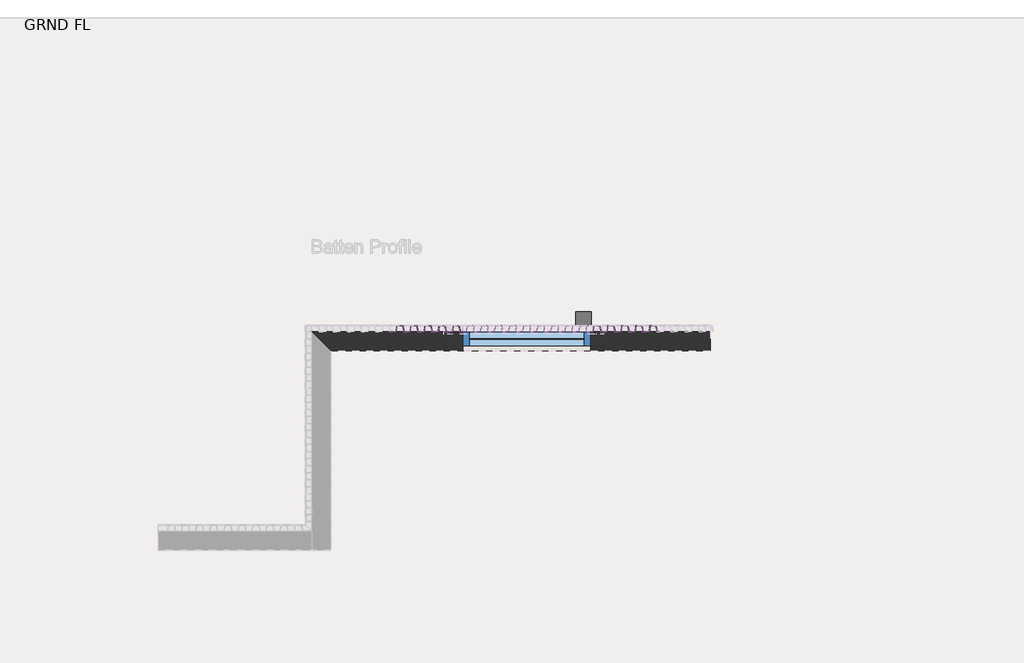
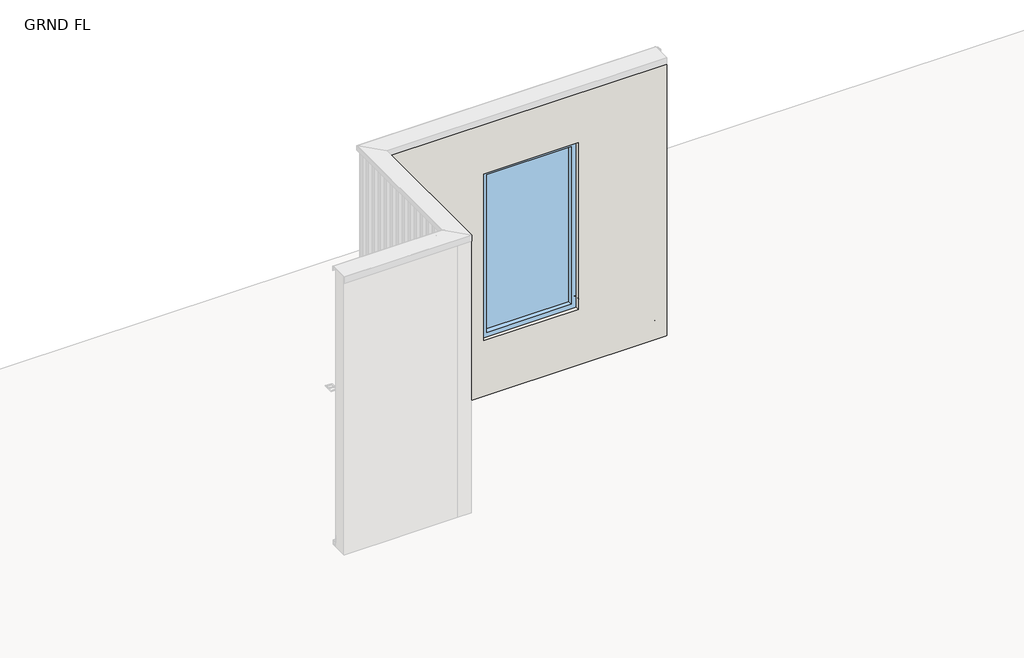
# One storey, part 6 of 13: 49 members, 1 plate, 1 wall, 1 window.
"""IFC4 building model written with IfcOpenShell, lengths in millimetres."""

from ifc_helpers import new_model, si_unit, frame, origin, place, context, project, spatial, polyline, ellipse_curve, transform, mapped, element, save
from ifc_brep_helpers import plane_surface, cylinder_surface, revolved_surface, advanced_brep
from components import rectangular_mullion_24ba1bdb, rectangular_mullion_119e265c, rectangular_mullion_e0d82e72, rectangular_mullion_8aa512d7, rectangular_mullion_ccb74b43, rectangular_mullion_4c5af404, rectangular_mullion_01a75ad8, empty_system_panel_empty_7b0bd923, window_5925f158

model = new_model("IFC4")

# Units and contexts
model_context = context("Model", 3, world=origin())
ifc_project = project(units=[si_unit("LENGTHUNIT", "METRE", prefix="MILLI")], contexts=[model_context])

# Site, building, storey
site = spatial("IfcSite", under=ifc_project)
building = spatial("IfcBuilding", under=site)
storey = spatial("IfcBuildingStorey", under=building, Name="GRND FL", Elevation=35277.5920148)

# Members
placement = place(None, origin())
rectangular_mullion_shape = rectangular_mullion_24ba1bdb(model_context)
element("IfcMember", 1, ObjectType="Rectangular Mullion : CD_NINELINE_Batten Intermediate", at=placement, inside=storey, context=model_context, shape_type="MappedRepresentation", body=[
    mapped(rectangular_mullion_shape, transform((69609.9888682, -3745.6146039, 35330.5920148), x_axis=(1.0, 0.0, 0.0), y_axis=(0.0, -1.0, 0.0), z_axis=(0.0, 0.0, -1.0))),
])
element("IfcMember", 2, ObjectType="Rectangular Mullion : CD_NINELINE_Batten Intermediate", at=placement, inside=storey, context=model_context, shape_type="MappedRepresentation", body=[
    mapped(rectangular_mullion_shape, transform((69715.9888682, -3745.6146039, 35330.5920148), x_axis=(1.0, 0.0, 0.0), y_axis=(0.0, -1.0, 0.0), z_axis=(0.0, 0.0, -1.0))),
])
element("IfcMember", 3, ObjectType="Rectangular Mullion : CD_NINELINE_Batten Intermediate", at=placement, inside=storey, context=model_context, shape_type="MappedRepresentation", body=[
    mapped(rectangular_mullion_shape, transform((69821.9888682, -3745.6146039, 35330.5920148), x_axis=(1.0, 0.0, 0.0), y_axis=(0.0, -1.0, 0.0), z_axis=(0.0, 0.0, -1.0))),
])
element("IfcMember", 4, ObjectType="Rectangular Mullion : CD_NINELINE_Batten Intermediate", at=placement, inside=storey, context=model_context, shape_type="MappedRepresentation", body=[
    mapped(rectangular_mullion_shape, transform((69927.9888682, -3745.6146039, 35330.5920148), x_axis=(1.0, 0.0, 0.0), y_axis=(0.0, -1.0, 0.0), z_axis=(0.0, 0.0, -1.0))),
])
element("IfcMember", 5, ObjectType="Rectangular Mullion : CD_NINELINE_Batten Intermediate", at=placement, inside=storey, context=model_context, shape_type="MappedRepresentation", body=[
    mapped(rectangular_mullion_shape, transform((70033.9888682, -3745.6146039, 35330.5920148), x_axis=(1.0, 0.0, 0.0), y_axis=(0.0, -1.0, 0.0), z_axis=(0.0, 0.0, -1.0))),
])
element("IfcMember", 6, ObjectType="Rectangular Mullion : CD_NINELINE_Batten Intermediate", at=placement, inside=storey, context=model_context, shape_type="MappedRepresentation", body=[
    mapped(rectangular_mullion_shape, transform((70139.9888682, -3745.6146039, 35330.5920148), x_axis=(1.0, 0.0, 0.0), y_axis=(0.0, -1.0, 0.0), z_axis=(0.0, 0.0, -1.0))),
])
element("IfcMember", 7, ObjectType="Rectangular Mullion : CD_NINELINE_Batten Intermediate", at=placement, inside=storey, context=model_context, shape_type="MappedRepresentation", body=[
    mapped(rectangular_mullion_shape, transform((70245.9888682, -3745.6146039, 35330.5920148), x_axis=(1.0, 0.0, 0.0), y_axis=(0.0, -1.0, 0.0), z_axis=(0.0, 0.0, -1.0))),
])
element("IfcMember", 8, ObjectType="Rectangular Mullion : CD_NINELINE_Batten Intermediate", at=placement, inside=storey, context=model_context, shape_type="MappedRepresentation", body=[
    mapped(rectangular_mullion_shape, transform((70351.9888682, -3745.6146039, 35330.5920148), x_axis=(1.0, 0.0, 0.0), y_axis=(0.0, -1.0, 0.0), z_axis=(0.0, 0.0, -1.0))),
])
element("IfcMember", 9, ObjectType="Rectangular Mullion : CD_NINELINE_Batten Intermediate", at=placement, inside=storey, context=model_context, shape_type="MappedRepresentation", body=[
    mapped(rectangular_mullion_shape, transform((70457.9888682, -3745.6146039, 35330.5920148), x_axis=(1.0, 0.0, 0.0), y_axis=(0.0, -1.0, 0.0), z_axis=(0.0, 0.0, -1.0))),
])
rectangular_mullion_2_shape = rectangular_mullion_119e265c(model_context)
element("IfcMember", 10, ObjectType="Rectangular Mullion : CD_NINELINE_Batten Intermediate", at=placement, inside=storey, context=model_context, shape_type="MappedRepresentation", body=[
    mapped(rectangular_mullion_2_shape, transform((69609.9888682, -3745.6146039, 37732.5920148), x_axis=(1.0, 0.0, 0.0), y_axis=(0.0, -1.0, 0.0), z_axis=(0.0, 0.0, -1.0))),
])
element("IfcMember", 11, ObjectType="Rectangular Mullion : CD_NINELINE_Batten Intermediate", at=placement, inside=storey, context=model_context, shape_type="MappedRepresentation", body=[
    mapped(rectangular_mullion_2_shape, transform((69715.9888682, -3745.6146039, 37732.5920148), x_axis=(1.0, 0.0, 0.0), y_axis=(0.0, -1.0, 0.0), z_axis=(0.0, 0.0, -1.0))),
])
element("IfcMember", 12, ObjectType="Rectangular Mullion : CD_NINELINE_Batten Intermediate", at=placement, inside=storey, context=model_context, shape_type="MappedRepresentation", body=[
    mapped(rectangular_mullion_2_shape, transform((69821.9888682, -3745.6146039, 37732.5920148), x_axis=(1.0, 0.0, 0.0), y_axis=(0.0, -1.0, 0.0), z_axis=(0.0, 0.0, -1.0))),
])
element("IfcMember", 13, ObjectType="Rectangular Mullion : CD_NINELINE_Batten Intermediate", at=placement, inside=storey, context=model_context, shape_type="MappedRepresentation", body=[
    mapped(rectangular_mullion_2_shape, transform((69927.9888682, -3745.6146039, 37732.5920148), x_axis=(1.0, 0.0, 0.0), y_axis=(0.0, -1.0, 0.0), z_axis=(0.0, 0.0, -1.0))),
])
element("IfcMember", 14, ObjectType="Rectangular Mullion : CD_NINELINE_Batten Intermediate", at=placement, inside=storey, context=model_context, shape_type="MappedRepresentation", body=[
    mapped(rectangular_mullion_2_shape, transform((70033.9888682, -3745.6146039, 37732.5920148), x_axis=(1.0, 0.0, 0.0), y_axis=(0.0, -1.0, 0.0), z_axis=(0.0, 0.0, -1.0))),
])
element("IfcMember", 15, ObjectType="Rectangular Mullion : CD_NINELINE_Batten Intermediate", at=placement, inside=storey, context=model_context, shape_type="MappedRepresentation", body=[
    mapped(rectangular_mullion_2_shape, transform((70139.9888682, -3745.6146039, 37732.5920148), x_axis=(1.0, 0.0, 0.0), y_axis=(0.0, -1.0, 0.0), z_axis=(0.0, 0.0, -1.0))),
])
element("IfcMember", 16, ObjectType="Rectangular Mullion : CD_NINELINE_Batten Intermediate", at=placement, inside=storey, context=model_context, shape_type="MappedRepresentation", body=[
    mapped(rectangular_mullion_2_shape, transform((70245.9888682, -3745.6146039, 37732.5920148), x_axis=(1.0, 0.0, 0.0), y_axis=(0.0, -1.0, 0.0), z_axis=(0.0, 0.0, -1.0))),
])
element("IfcMember", 17, ObjectType="Rectangular Mullion : CD_NINELINE_Batten Intermediate", at=placement, inside=storey, context=model_context, shape_type="MappedRepresentation", body=[
    mapped(rectangular_mullion_2_shape, transform((70351.9888682, -3745.6146039, 37732.5920148), x_axis=(1.0, 0.0, 0.0), y_axis=(0.0, -1.0, 0.0), z_axis=(0.0, 0.0, -1.0))),
])
element("IfcMember", 18, ObjectType="Rectangular Mullion : CD_NINELINE_Batten Intermediate", at=placement, inside=storey, context=model_context, shape_type="MappedRepresentation", body=[
    mapped(rectangular_mullion_2_shape, transform((70457.9888682, -3745.6146039, 37732.5920148), x_axis=(1.0, 0.0, 0.0), y_axis=(0.0, -1.0, 0.0), z_axis=(0.0, 0.0, -1.0))),
])
element("IfcMember", 19, ObjectType="Rectangular Mullion : CD_NINELINE_Batten Intermediate", at=placement, inside=storey, context=model_context, shape_type="MappedRepresentation", body=[
    mapped(rectangular_mullion_2_shape, transform((69503.9888682, -3745.6146039, 37732.5920148), x_axis=(1.0, 0.0, 0.0), y_axis=(0.0, -1.0, 0.0), z_axis=(0.0, 0.0, -1.0))),
])
element("IfcMember", 20, ObjectType="Rectangular Mullion : CD_NINELINE_Batten Intermediate", at=placement, inside=storey, context=model_context, shape_type="MappedRepresentation", body=[
    mapped(rectangular_mullion_2_shape, transform((70563.9888682, -3745.6146039, 37732.5920148), x_axis=(1.0, 0.0, 0.0), y_axis=(0.0, -1.0, 0.0), z_axis=(0.0, 0.0, -1.0))),
])
element("IfcMember", 21, ObjectType="Rectangular Mullion : CD_NINELINE_Batten Intermediate", at=placement, inside=storey, context=model_context, shape_type="MappedRepresentation", body=[
    mapped(rectangular_mullion_2_shape, transform((69079.9888682, -3745.6146039, 37732.5920148), x_axis=(1.0, 0.0, 0.0), y_axis=(0.0, -1.0, 0.0), z_axis=(0.0, 0.0, -1.0))),
])
element("IfcMember", 22, ObjectType="Rectangular Mullion : CD_NINELINE_Batten Intermediate", at=placement, inside=storey, context=model_context, shape_type="MappedRepresentation", body=[
    mapped(rectangular_mullion_2_shape, transform((69185.9888682, -3745.6146039, 37732.5920148), x_axis=(1.0, 0.0, 0.0), y_axis=(0.0, -1.0, 0.0), z_axis=(0.0, 0.0, -1.0))),
])
element("IfcMember", 23, ObjectType="Rectangular Mullion : CD_NINELINE_Batten Intermediate", at=placement, inside=storey, context=model_context, shape_type="MappedRepresentation", body=[
    mapped(rectangular_mullion_2_shape, transform((69291.9888682, -3745.6146039, 37732.5920148), x_axis=(1.0, 0.0, 0.0), y_axis=(0.0, -1.0, 0.0), z_axis=(0.0, 0.0, -1.0))),
])
element("IfcMember", 24, ObjectType="Rectangular Mullion : CD_NINELINE_Batten Intermediate", at=placement, inside=storey, context=model_context, shape_type="MappedRepresentation", body=[
    mapped(rectangular_mullion_2_shape, transform((69397.9888682, -3745.6146039, 37732.5920148), x_axis=(1.0, 0.0, 0.0), y_axis=(0.0, -1.0, 0.0), z_axis=(0.0, 0.0, -1.0))),
])
element("IfcMember", 25, ObjectType="Rectangular Mullion : CD_NINELINE_Batten Intermediate", at=placement, inside=storey, context=model_context, shape_type="MappedRepresentation", body=[
    mapped(rectangular_mullion_2_shape, transform((70669.9888682, -3745.6146039, 37732.5920148), x_axis=(1.0, 0.0, 0.0), y_axis=(0.0, -1.0, 0.0), z_axis=(0.0, 0.0, -1.0))),
])
element("IfcMember", 26, ObjectType="Rectangular Mullion : CD_NINELINE_Batten Intermediate", at=placement, inside=storey, context=model_context, shape_type="MappedRepresentation", body=[
    mapped(rectangular_mullion_2_shape, transform((70775.9888682, -3745.6146039, 37732.5920148), x_axis=(1.0, 0.0, 0.0), y_axis=(0.0, -1.0, 0.0), z_axis=(0.0, 0.0, -1.0))),
])
element("IfcMember", 27, ObjectType="Rectangular Mullion : CD_NINELINE_Batten Intermediate", at=placement, inside=storey, context=model_context, shape_type="MappedRepresentation", body=[
    mapped(rectangular_mullion_2_shape, transform((70881.9888682, -3745.6146039, 37732.5920148), x_axis=(1.0, 0.0, 0.0), y_axis=(0.0, -1.0, 0.0), z_axis=(0.0, 0.0, -1.0))),
])
element("IfcMember", 28, ObjectType="Rectangular Mullion : CD_NINELINE_Batten Intermediate", at=placement, inside=storey, context=model_context, shape_type="MappedRepresentation", body=[
    mapped(rectangular_mullion_2_shape, transform((70987.9888682, -3745.6146039, 37732.5920148), x_axis=(1.0, 0.0, 0.0), y_axis=(0.0, -1.0, 0.0), z_axis=(0.0, 0.0, -1.0))),
])
rectangular_mullion_3_shape = rectangular_mullion_e0d82e72(model_context)
element("IfcMember", 29, ObjectType="Rectangular Mullion : CD_NINELINE_Batten Intermediate", at=placement, inside=storey, context=model_context, shape_type="MappedRepresentation", body=[
    mapped(rectangular_mullion_3_shape, transform((69079.9888682, -3745.6146039, 35330.5920148), x_axis=(1.0, 0.0, 0.0), y_axis=(0.0, -1.0, 0.0), z_axis=(0.0, 0.0, -1.0))),
])
element("IfcMember", 30, ObjectType="Rectangular Mullion : CD_NINELINE_Batten Intermediate", at=placement, inside=storey, context=model_context, shape_type="MappedRepresentation", body=[
    mapped(rectangular_mullion_3_shape, transform((69185.9888682, -3745.6146039, 35330.5920148), x_axis=(1.0, 0.0, 0.0), y_axis=(0.0, -1.0, 0.0), z_axis=(0.0, 0.0, -1.0))),
])
element("IfcMember", 31, ObjectType="Rectangular Mullion : CD_NINELINE_Batten Intermediate", at=placement, inside=storey, context=model_context, shape_type="MappedRepresentation", body=[
    mapped(rectangular_mullion_3_shape, transform((69397.9888682, -3745.6146039, 35330.5920148), x_axis=(1.0, 0.0, 0.0), y_axis=(0.0, -1.0, 0.0), z_axis=(0.0, 0.0, -1.0))),
])
element("IfcMember", 32, ObjectType="Rectangular Mullion : CD_NINELINE_Batten Intermediate", at=placement, inside=storey, context=model_context, shape_type="MappedRepresentation", body=[
    mapped(rectangular_mullion_3_shape, transform((69291.9888682, -3745.6146039, 35330.5920148), x_axis=(1.0, 0.0, 0.0), y_axis=(0.0, -1.0, 0.0), z_axis=(0.0, 0.0, -1.0))),
])
element("IfcMember", 33, ObjectType="Rectangular Mullion : CD_NINELINE_Batten Intermediate", at=placement, inside=storey, context=model_context, shape_type="MappedRepresentation", body=[
    mapped(rectangular_mullion_3_shape, transform((70669.9888682, -3745.6146039, 35330.5920148), x_axis=(1.0, 0.0, 0.0), y_axis=(0.0, -1.0, 0.0), z_axis=(0.0, 0.0, -1.0))),
])
element("IfcMember", 34, ObjectType="Rectangular Mullion : CD_NINELINE_Batten Intermediate", at=placement, inside=storey, context=model_context, shape_type="MappedRepresentation", body=[
    mapped(rectangular_mullion_3_shape, transform((70775.9888682, -3745.6146039, 35330.5920148), x_axis=(1.0, 0.0, 0.0), y_axis=(0.0, -1.0, 0.0), z_axis=(0.0, 0.0, -1.0))),
])
element("IfcMember", 35, ObjectType="Rectangular Mullion : CD_NINELINE_Batten Intermediate", at=placement, inside=storey, context=model_context, shape_type="MappedRepresentation", body=[
    mapped(rectangular_mullion_3_shape, transform((70881.9888682, -3745.6146039, 35330.5920148), x_axis=(1.0, 0.0, 0.0), y_axis=(0.0, -1.0, 0.0), z_axis=(0.0, 0.0, -1.0))),
])
element("IfcMember", 36, ObjectType="Rectangular Mullion : CD_NINELINE_Batten Intermediate", at=placement, inside=storey, context=model_context, shape_type="MappedRepresentation", body=[
    mapped(rectangular_mullion_3_shape, transform((70987.9888682, -3745.6146039, 35330.5920148), x_axis=(1.0, 0.0, 0.0), y_axis=(0.0, -1.0, 0.0), z_axis=(0.0, 0.0, -1.0))),
])
rectangular_mullion_4_shape = rectangular_mullion_8aa512d7(model_context)
element("IfcMember", 37, ObjectType="Rectangular Mullion : CD_NINELINE_Batten Intermediate", at=placement, inside=storey, context=model_context, shape_type="MappedRepresentation", body=[
    mapped(rectangular_mullion_4_shape, transform((69079.9888682, -3745.6146039, 35877.5920148), x_axis=(1.0, 0.0, 0.0), y_axis=(0.0, -1.0, 0.0), z_axis=(0.0, 0.0, -1.0))),
])
element("IfcMember", 38, ObjectType="Rectangular Mullion : CD_NINELINE_Batten Intermediate", at=placement, inside=storey, context=model_context, shape_type="MappedRepresentation", body=[
    mapped(rectangular_mullion_4_shape, transform((69185.9888682, -3745.6146039, 35877.5920148), x_axis=(1.0, 0.0, 0.0), y_axis=(0.0, -1.0, 0.0), z_axis=(0.0, 0.0, -1.0))),
])
element("IfcMember", 39, ObjectType="Rectangular Mullion : CD_NINELINE_Batten Intermediate", at=placement, inside=storey, context=model_context, shape_type="MappedRepresentation", body=[
    mapped(rectangular_mullion_4_shape, transform((69291.9888682, -3745.6146039, 35877.5920148), x_axis=(1.0, 0.0, 0.0), y_axis=(0.0, -1.0, 0.0), z_axis=(0.0, 0.0, -1.0))),
])
element("IfcMember", 40, ObjectType="Rectangular Mullion : CD_NINELINE_Batten Intermediate", at=placement, inside=storey, context=model_context, shape_type="MappedRepresentation", body=[
    mapped(rectangular_mullion_4_shape, transform((69397.9888682, -3745.6146039, 35877.5920148), x_axis=(1.0, 0.0, 0.0), y_axis=(0.0, -1.0, 0.0), z_axis=(0.0, 0.0, -1.0))),
])
element("IfcMember", 41, ObjectType="Rectangular Mullion : CD_NINELINE_Batten Intermediate", at=placement, inside=storey, context=model_context, shape_type="MappedRepresentation", body=[
    mapped(rectangular_mullion_4_shape, transform((70669.9888682, -3745.6146039, 35877.5920148), x_axis=(1.0, 0.0, 0.0), y_axis=(0.0, -1.0, 0.0), z_axis=(0.0, 0.0, -1.0))),
])
element("IfcMember", 42, ObjectType="Rectangular Mullion : CD_NINELINE_Batten Intermediate", at=placement, inside=storey, context=model_context, shape_type="MappedRepresentation", body=[
    mapped(rectangular_mullion_4_shape, transform((70775.9888682, -3745.6146039, 35877.5920148), x_axis=(1.0, 0.0, 0.0), y_axis=(0.0, -1.0, 0.0), z_axis=(0.0, 0.0, -1.0))),
])
element("IfcMember", 43, ObjectType="Rectangular Mullion : CD_NINELINE_Batten Intermediate", at=placement, inside=storey, context=model_context, shape_type="MappedRepresentation", body=[
    mapped(rectangular_mullion_4_shape, transform((70881.9888682, -3745.6146039, 35877.5920148), x_axis=(1.0, 0.0, 0.0), y_axis=(0.0, -1.0, 0.0), z_axis=(0.0, 0.0, -1.0))),
])
element("IfcMember", 44, ObjectType="Rectangular Mullion : CD_NINELINE_Batten Intermediate", at=placement, inside=storey, context=model_context, shape_type="MappedRepresentation", body=[
    mapped(rectangular_mullion_4_shape, transform((70987.9888682, -3745.6146039, 35877.5920148), x_axis=(1.0, 0.0, 0.0), y_axis=(0.0, -1.0, 0.0), z_axis=(0.0, 0.0, -1.0))),
])
rectangular_mullion_5_shape = rectangular_mullion_ccb74b43(model_context)
element("IfcMember", 45, ObjectType="Rectangular Mullion : CD_NINELINE_Batten End", at=placement, inside=storey, context=model_context, shape_type="MappedRepresentation", body=[
    mapped(rectangular_mullion_5_shape, transform((71508.9961337, -3745.6146039, 35330.5920148), x_axis=(1.0, 0.0, 0.0), y_axis=(0.0, -1.0, 0.0), z_axis=(0.0, 0.0, -1.0))),
])
element("IfcMember", 46, ObjectType="Rectangular Mullion : CD_NINELINE_Batten Intermediate", at=placement, inside=storey, context=model_context, shape_type="MappedRepresentation", body=[
    mapped(rectangular_mullion_3_shape, transform((69503.9888682, -3745.6146039, 35330.5920148), x_axis=(1.0, 0.0, 0.0), y_axis=(0.0, -1.0, 0.0), z_axis=(0.0, 0.0, -1.0))),
])
element("IfcMember", 47, ObjectType="Rectangular Mullion : CD_NINELINE_Batten Intermediate", at=placement, inside=storey, context=model_context, shape_type="MappedRepresentation", body=[
    mapped(rectangular_mullion_3_shape, transform((70563.9888682, -3745.6146039, 35330.5920148), x_axis=(1.0, 0.0, 0.0), y_axis=(0.0, -1.0, 0.0), z_axis=(0.0, 0.0, -1.0))),
])
rectangular_mullion_6_shape = rectangular_mullion_4c5af404(model_context)
element("IfcMember", 48, ObjectType="Rectangular Mullion : CD_NINELINE_Batten Intermediate w Extension", at=placement, inside=storey, context=model_context, shape_type="MappedRepresentation", body=[
    mapped(rectangular_mullion_6_shape, transform((69503.9888682, -3745.6146039, 35877.5920148), x_axis=(1.0, 0.0, 0.0), y_axis=(0.0, -1.0, 0.0), z_axis=(0.0, 0.0, -1.0))),
])
rectangular_mullion_7_shape = rectangular_mullion_01a75ad8(model_context)
element("IfcMember", 49, ObjectType="Rectangular Mullion : CD_NINELINE_Batten Intermediate 20mm pan", at=placement, inside=storey, context=model_context, shape_type="MappedRepresentation", body=[
    mapped(rectangular_mullion_7_shape, transform((70563.9888682, -3745.6146039, 35877.5920148), x_axis=(1.0, 0.0, 0.0), y_axis=(0.0, -1.0, 0.0), z_axis=(0.0, 0.0, -1.0))),
])

# Plate
empty_system_panel_empty_shape = empty_system_panel_empty_7b0bd923(model_context)
element("IfcPlate", 50, ObjectType="Empty System Panel : Empty", at=placement, inside=storey, context=model_context, shape_type="MappedRepresentation", body=[
    mapped(empty_system_panel_empty_shape, transform((70539.5899603, -3745.6146039, 35872.5920148), x_axis=(1.0, 0.0, 0.0), y_axis=(0.0, 1.0, 0.0), z_axis=(0.0, 0.0, 1.0))),
])

# Wall
element("IfcWall", 51, ObjectType="EXT METAL SF- Top Hat 35, Steel Frame 90, Plasterboard 13", at=placement, inside=storey, context=model_context, shape_type="AdvancedBrep", body=[
    advanced_brep(
    [(68635.6836337, -3887.6146039, 35277.5920148), (71493.6836337, -3887.6146039, 35277.5920148), (71493.6836337, -3887.6146039, 38277.5920148), (68635.6836337, -3887.6146039, 38277.5920148), (70594.2273059, -3887.6146039, 37677.5920148), (70594.2273059, -3887.6146039, 35877.5920148), (69629.2273059, -3887.6146039, 35877.5920148), (69629.2273059, -3887.6146039, 37677.5920148), (71493.6836337, -3745.6146039, 35277.5920148), (68493.6836337, -3745.6146039, 35277.5920148), (68493.6836337, -3745.6146039, 35327.3957094), (71493.6836337, -3745.6146039, 35327.3957094), (68493.6836337, -3745.6146039, 38277.5920148), (71493.6836337, -3745.6146039, 38277.5920148), (71493.6836337, -3745.6146039, 35407.5920148), (68493.6836337, -3745.6146039, 35407.5920148), (70593.2273059, -3745.6146039, 35877.5920148), (70594.2273059, -3745.6146039, 35877.5920148), (70594.2273059, -3745.6146039, 35878.9936411), (70627.7463066, -3745.6146039, 35878.9936411), (70673.9395389, -3745.6146039, 35878.5920529), (70675.9296588, -3745.6146039, 35876.592129), (70675.9296588, -3745.6146039, 35845.9418703), (70673.9145368, -3745.6146039, 35862.2912699), (70672.9181993, -3745.6146039, 35862.1694005), (70676.9334786, -3745.6146039, 35829.5920148), (70676.9334786, -3745.6146039, 35876.592129), (70673.9482987, -3745.6146039, 35879.5920148), (70627.7463066, -3745.6146039, 35879.9936792), (70594.2273059, -3745.6146039, 35879.9936792), (70594.2273059, -3745.6146039, 37677.5920148), (70688.6480677, -3745.6146039, 37677.5920148), (70691.6595272, -3745.6146039, 37680.5920148), (70691.6595272, -3745.6146039, 37722.5924717), (70688.7006249, -3745.6146039, 37725.5920148), (70640.4647155, -3745.6146039, 37726.4307718), (69539.1300402, -3745.6146039, 37726.4307718), (69490.8941308, -3745.6146039, 37725.5920148), (69487.9352285, -3745.6146039, 37722.5924717), (69487.9352285, -3745.6146039, 37680.5920148), (69490.946688, -3745.6146039, 37677.5920148), (69629.2273059, -3745.6146039, 37677.5920148), (69629.2273059, -3745.6146039, 35879.9936792), (69551.60239, -3745.6146039, 35879.9936792), (69505.4003978, -3745.6146039, 35879.5920148), (69502.4152179, -3745.6146039, 35876.592129), (69502.4152179, -3745.6146039, 35829.5920148), (69506.4304973, -3745.6146039, 35862.1694005), (69505.4341598, -3745.6146039, 35862.2912699), (69503.4190378, -3745.6146039, 35845.9418703), (69503.4190378, -3745.6146039, 35876.592129), (69505.4091577, -3745.6146039, 35878.5920529), (69551.60239, -3745.6146039, 35878.9936411), (69629.2273059, -3745.6146039, 35878.9936411), (69629.2273059, -3745.6146039, 35877.5920148), (69630.2273059, -3745.6146039, 35877.5920148), (69539.1300402, -3745.6146039, 37725.4306195), (70640.4647155, -3745.6146039, 37725.4306195), (70688.6831058, -3745.6146039, 37724.5921671), (70690.6557074, -3745.6146039, 37722.5924717), (70690.6557074, -3745.6146039, 37680.5920148), (70688.6480677, -3745.6146039, 37678.5920148), (69490.946688, -3745.6146039, 37678.5920148), (69488.9390483, -3745.6146039, 37680.5920148), (69488.9390483, -3745.6146039, 37722.5924717), (69490.9116498, -3745.6146039, 37724.5921671), (71493.6836337, -3746.6146039, 35327.4131644), (71493.6836337, -3746.6146039, 35407.5920148), (70594.2273059, -3768.6146039, 37677.5920148), (70594.2273059, -3762.6146039, 37677.5920148), (70594.2273059, -3759.6146039, 35880.1158553), (70594.2273059, -3759.6146039, 35886.5920148), (70594.2273059, -3760.6146039, 35886.5920148), (70594.2273059, -3760.6146039, 35879.1245441), (70594.2273059, -3768.6146039, 35877.5920148), (69629.2273059, -3768.6146039, 37677.5920148), (69629.2273059, -3762.6146039, 37677.5920148), (69629.2273059, -3768.6146039, 35877.5920148), (69629.2273059, -3760.6146039, 35879.1245441), (69629.2273059, -3760.6146039, 35886.5920148), (69629.2273059, -3759.6146039, 35886.5920148), (69629.2273059, -3759.6146039, 35880.1158553), (68494.6836337, -3746.6146039, 35407.5920148), (68494.6836337, -3746.6146039, 35327.4131644), (69565.3473576, -3760.6146039, 35879.1245441), (70614.001339, -3760.6146039, 35879.1245441), (69565.3473576, -3760.6146039, 35886.5920148), (70614.001339, -3760.6146039, 35886.5920148), (69564.4310264, -3759.6146039, 35886.5920148), (69564.4310264, -3759.6146039, 35880.1158553), (70614.9176702, -3759.6146039, 35886.5920148), (70614.9176702, -3759.6146039, 35880.1158553), (69501.0750806, -3760.9324443, 35829.5920148), (69501.0750806, -3760.9324443, 35876.592129), (69504.0602605, -3760.9324443, 35879.5920148), (69564.3157303, -3760.9324443, 35880.1158553), (69564.3157303, -3760.9324443, 35886.5920148), (69565.3195502, -3760.9324443, 35886.5920148), (69565.3195502, -3760.9324443, 35879.1245441), (69504.0690203, -3760.9324443, 35878.5920529), (69502.0789004, -3760.9324443, 35876.592129), (69502.0789004, -3760.9324443, 35845.9418703), (69504.0940224, -3760.9324443, 35862.2912699), (69505.0903599, -3760.9324443, 35862.1694005), (70615.0329663, -3760.9324443, 35886.5920148), (70614.0291464, -3760.9324443, 35886.5920148), (70615.0329663, -3760.9324443, 35880.1158553), (70675.2884361, -3760.9324443, 35879.5920148), (70678.273616, -3760.9324443, 35876.592129), (70678.273616, -3760.9324443, 35829.5920148), (70674.2583367, -3760.9324443, 35862.1694005), (70675.2546742, -3760.9324443, 35862.2912699), (70677.2697962, -3760.9324443, 35845.9418703), (70677.2697962, -3760.9324443, 35876.592129), (70675.2796762, -3760.9324443, 35878.5920529), (70614.0291464, -3760.9324443, 35879.1245441), (69554.7076701, -3762.6146039, 37677.5920148), (69554.7076701, -3762.6146039, 37687.5920148), (70624.8870855, -3762.6146039, 37687.5920148), (70624.8870855, -3762.6146039, 37677.5920148), (69553.791339, -3761.6146039, 37687.5920148), (69553.791339, -3761.6146039, 37678.5920148), (70625.8034167, -3761.6146039, 37678.5920148), (70625.8034167, -3761.6146039, 37687.5920148), (69541.8790337, -3748.6146039, 37725.4829847), (70637.715722, -3748.6146039, 37725.4829847), (69541.8790337, -3748.6146039, 37825.5920148), (70637.715722, -3748.6146039, 37825.5920148), (69540.9627025, -3747.6146039, 37825.5920148), (69540.9627025, -3747.6146039, 37726.4656819), (70638.6320531, -3747.6146039, 37726.4656819), (70638.6320531, -3747.6146039, 37825.5920148), (69486.4201137, -3762.9324443, 37680.5920148), (69486.4201137, -3762.9324443, 37722.5924717), (69489.379016, -3762.9324443, 37725.5920148), (69539.6225651, -3762.9324443, 37726.4656819), (69539.6225651, -3762.9324443, 37825.5920148), (69540.626385, -3762.9324443, 37825.5920148), (69540.626385, -3762.9324443, 37725.4829847), (69489.3965351, -3762.9324443, 37724.5921671), (69487.4239336, -3762.9324443, 37722.5924717), (69487.4239336, -3762.9324443, 37680.5920148), (69489.4315733, -3762.9324443, 37678.5920148), (69553.6760429, -3762.9324443, 37678.5920148), (69553.6760429, -3762.9324443, 37687.5920148), (69554.6798627, -3762.9324443, 37687.5920148), (69554.6798627, -3762.9324443, 37677.5920148), (69489.4315733, -3762.9324443, 37677.5920148), (70624.9148929, -3762.9324443, 37677.5920148), (70690.1631824, -3762.9324443, 37677.5920148), (70625.9187128, -3762.9324443, 37687.5920148), (70624.9148929, -3762.9324443, 37687.5920148), (70690.1631824, -3762.9324443, 37678.5920148), (70625.9187128, -3762.9324443, 37678.5920148), (70639.9721905, -3762.9324443, 37825.5920148), (70638.9683707, -3762.9324443, 37825.5920148), (70692.1708221, -3762.9324443, 37680.5920148), (70692.1708221, -3762.9324443, 37722.5924717), (70690.1982205, -3762.9324443, 37724.5921671), (70638.9683707, -3762.9324443, 37725.4829847), (70639.9721905, -3762.9324443, 37726.4656819), (70690.2157396, -3762.9324443, 37725.5920148), (70693.1746419, -3762.9324443, 37722.5924717), (70693.1746419, -3762.9324443, 37680.5920148)],
    [
        (0, 1),
        (1, 2),
        (2, 3),
        (3, 0),
        (4, 5),
        (5, 6),
        (6, 7),
        (7, 4),
        (8, 9),
        (9, 10),
        (10, 11),
        (11, 8),
        (12, 13),
        (13, 14),
        (14, 15),
        (15, 12),
        (16, 17),
        (17, 18),
        (18, 19),
        (19, 20),
        (20, 21, ellipse_curve(frame((70673.9220191, -3745.6146039, 35876.592129), z_axis=(0.0, 1.0, 0.0), x_axis=(1.0, 0.0, 0.0)), 2.0076397, 2.0)),
        (21, 22),
        (22, 23),
        (23, 24),
        (24, 25),
        (25, 26),
        (26, 27, ellipse_curve(frame((70673.9220191, -3745.6146039, 35876.592129), z_axis=(0.0, -1.0, 0.0), x_axis=(-1.0, 0.0, 0.0)), 3.0114595, 3.0)),
        (27, 28),
        (28, 29),
        (29, 30),
        (30, 31),
        (31, 32, ellipse_curve(frame((70688.6480677, -3745.6146039, 37680.5920148), z_axis=(0.0, -1.0, 0.0), x_axis=(-1.0, 0.0, 0.0)), 3.0114595, 3.0)),
        (32, 33),
        (33, 34, ellipse_curve(frame((70688.6480677, -3745.6146039, 37722.5924717), z_axis=(0.0, -1.0, 0.0), x_axis=(-1.0, 0.0, 0.0)), 3.0114595, 3.0)),
        (34, 35),
        (35, 36),
        (36, 37),
        (37, 38, ellipse_curve(frame((69490.946688, -3745.6146039, 37722.5924717), z_axis=(0.0, -1.0, 0.0), x_axis=(-1.0, 0.0, 0.0)), 3.0114595, 3.0)),
        (38, 39),
        (39, 40, ellipse_curve(frame((69490.946688, -3745.6146039, 37680.5920148), z_axis=(0.0, -1.0, 0.0), x_axis=(-1.0, 0.0, 0.0)), 3.0114595, 3.0)),
        (40, 41),
        (41, 42),
        (42, 43),
        (43, 44),
        (44, 45, ellipse_curve(frame((69505.4266774, -3745.6146039, 35876.592129), z_axis=(0.0, -1.0, 0.0), x_axis=(-1.0, 0.0, 0.0)), 3.0114595, 3.0)),
        (45, 46),
        (46, 47),
        (47, 48),
        (48, 49),
        (49, 50),
        (50, 51, ellipse_curve(frame((69505.4266774, -3745.6146039, 35876.592129), z_axis=(0.0, 1.0, 0.0), x_axis=(1.0, 0.0, 0.0)), 2.0076397, 2.0)),
        (51, 52),
        (52, 53),
        (53, 54),
        (54, 55),
        (55, 16),
        (56, 57),
        (57, 58),
        (58, 59, ellipse_curve(frame((70688.6480677, -3745.6146039, 37722.5924717), z_axis=(0.0, 1.0, 0.0), x_axis=(1.0, 0.0, 0.0)), 2.0076397, 2.0)),
        (59, 60),
        (60, 61, ellipse_curve(frame((70688.6480677, -3745.6146039, 37680.5920148), z_axis=(0.0, 1.0, 0.0), x_axis=(1.0, 0.0, 0.0)), 2.0076397, 2.0)),
        (61, 62),
        (62, 63, ellipse_curve(frame((69490.946688, -3745.6146039, 37680.5920148), z_axis=(0.0, 1.0, 0.0), x_axis=(1.0, 0.0, 0.0)), 2.0076397, 2.0)),
        (63, 64),
        (64, 65, ellipse_curve(frame((69490.946688, -3745.6146039, 37722.5924717), z_axis=(0.0, 1.0, 0.0), x_axis=(1.0, 0.0, 0.0)), 2.0076397, 2.0)),
        (65, 56),
        (0, 9),
        (8, 1),
        (11, 66),
        (66, 67),
        (67, 14),
        (13, 2),
        (12, 3),
        (4, 68),
        (68, 69),
        (69, 30),
        (29, 70),
        (70, 71),
        (71, 72),
        (72, 73),
        (73, 18),
        (17, 74),
        (74, 5),
        (7, 75),
        (75, 76),
        (76, 69),
        (6, 77),
        (77, 54),
        (53, 78),
        (78, 79),
        (79, 80),
        (80, 81),
        (81, 42),
        (41, 76),
        (15, 82),
        (82, 83),
        (83, 10),
        (52, 84),
        (84, 78),
        (73, 85),
        (85, 19),
        (84, 86),
        (86, 79),
        (72, 87),
        (87, 85),
        (88, 89),
        (89, 81),
        (80, 88),
        (90, 71),
        (70, 91),
        (91, 90),
        (89, 43),
        (28, 91),
        (92, 93),
        (93, 94, ellipse_curve(frame((69504.0865401, -3760.9324443, 35876.592129), z_axis=(0.0, 1.0, 0.0), x_axis=(-1.0, 0.0, 0.0)), 3.0114595, 3.0)),
        (94, 95),
        (95, 96),
        (96, 97),
        (97, 98),
        (98, 99),
        (99, 100, ellipse_curve(frame((69504.0865401, -3760.9324443, 35876.592129), z_axis=(0.0, -1.0, 0.0), x_axis=(1.0, 0.0, 0.0)), 2.0076397, 2.0)),
        (100, 101),
        (101, 102),
        (102, 103),
        (103, 92),
        (92, 46),
        (45, 93),
        (103, 47),
        (102, 48),
        (101, 49),
        (100, 50),
        (99, 51),
        (98, 84),
        (97, 86),
        (90, 104),
        (104, 105),
        (105, 87),
        (96, 88),
        (95, 89),
        (94, 44),
        (104, 106),
        (106, 107),
        (107, 108, ellipse_curve(frame((70675.2621565, -3760.9324443, 35876.592129), z_axis=(0.0, 1.0, 0.0), x_axis=(-1.0, 0.0, 0.0)), 3.0114595, 3.0)),
        (108, 109),
        (109, 110),
        (110, 111),
        (111, 112),
        (112, 113),
        (113, 114, ellipse_curve(frame((70675.2621565, -3760.9324443, 35876.592129), z_axis=(0.0, -1.0, 0.0), x_axis=(1.0, 0.0, 0.0)), 2.0076397, 2.0)),
        (114, 115),
        (115, 105),
        (108, 26),
        (25, 109),
        (24, 110),
        (23, 111),
        (22, 112),
        (21, 113),
        (20, 114),
        (85, 115),
        (91, 106),
        (27, 107),
        (116, 117),
        (117, 118),
        (118, 119),
        (119, 69),
        (76, 116),
        (120, 121),
        (121, 122),
        (122, 123),
        (123, 120),
        (124, 125),
        (125, 57),
        (56, 124),
        (124, 126),
        (126, 127),
        (127, 125),
        (128, 129),
        (129, 130),
        (130, 131),
        (131, 128),
        (129, 36),
        (35, 130),
        (132, 133),
        (133, 134, ellipse_curve(frame((69489.4315733, -3762.9324443, 37722.5924717), z_axis=(0.0, 1.0, 0.0), x_axis=(-1.0, 0.0, 0.0)), 3.0114595, 3.0)),
        (134, 135),
        (135, 136),
        (136, 137),
        (137, 138),
        (138, 139),
        (139, 140, ellipse_curve(frame((69489.4315733, -3762.9324443, 37722.5924717), z_axis=(0.0, -1.0, 0.0), x_axis=(1.0, 0.0, 0.0)), 2.0076397, 2.0)),
        (140, 141),
        (141, 142, ellipse_curve(frame((69489.4315733, -3762.9324443, 37680.5920148), z_axis=(0.0, -1.0, 0.0), x_axis=(1.0, 0.0, 0.0)), 2.0076397, 2.0)),
        (142, 143),
        (143, 144),
        (144, 145),
        (145, 146),
        (146, 147),
        (147, 132, ellipse_curve(frame((69489.4315733, -3762.9324443, 37680.5920148), z_axis=(0.0, 1.0, 0.0), x_axis=(-1.0, 0.0, 0.0)), 3.0114595, 3.0)),
        (132, 39),
        (38, 133),
        (147, 40),
        (119, 148),
        (148, 149),
        (149, 31),
        (146, 116),
        (145, 117),
        (144, 120),
        (123, 150),
        (150, 151),
        (151, 118),
        (143, 121),
        (142, 62),
        (61, 152),
        (152, 153),
        (153, 122),
        (141, 63),
        (140, 64),
        (139, 65),
        (138, 124),
        (137, 126),
        (136, 128),
        (131, 154),
        (154, 155),
        (155, 127),
        (135, 129),
        (134, 37),
        (148, 151),
        (150, 153),
        (152, 156, ellipse_curve(frame((70690.1631824, -3762.9324443, 37680.5920148), z_axis=(0.0, -1.0, 0.0), x_axis=(1.0, 0.0, 0.0)), 2.0076397, 2.0)),
        (156, 157),
        (157, 158, ellipse_curve(frame((70690.1631824, -3762.9324443, 37722.5924717), z_axis=(0.0, -1.0, 0.0), x_axis=(1.0, 0.0, 0.0)), 2.0076397, 2.0)),
        (158, 159),
        (159, 155),
        (154, 160),
        (160, 161),
        (161, 162, ellipse_curve(frame((70690.1631824, -3762.9324443, 37722.5924717), z_axis=(0.0, 1.0, 0.0), x_axis=(-1.0, 0.0, 0.0)), 3.0114595, 3.0)),
        (162, 163),
        (163, 149, ellipse_curve(frame((70690.1631824, -3762.9324443, 37680.5920148), z_axis=(0.0, 1.0, 0.0), x_axis=(-1.0, 0.0, 0.0)), 3.0114595, 3.0)),
        (162, 33),
        (32, 163),
        (60, 156),
        (59, 157),
        (58, 158),
        (125, 159),
        (130, 160),
        (34, 161),
        (67, 82),
        (83, 66),
    ],
    [
        plane_surface(frame((68493.6836337, -3887.6146039, 35277.5920148), z_axis=(0.0, -1.0, 0.0), x_axis=(1.0, 0.0, 0.0))),
        plane_surface(frame((68493.6836337, -3745.6146039, 35277.5920148), z_axis=(0.0, 1.0, 0.0), x_axis=(-1.0, 0.0, 0.0))),
        plane_surface(frame((68564.6836337, -3887.6146039, 35277.5920148), z_axis=(0.0, 0.0, -1.0), x_axis=(0.0, 1.0, 0.0))),
        plane_surface(frame((71493.6836337, -3887.6146039, 35277.5920148), z_axis=(1.0, 0.0, 0.0), x_axis=(0.0, 1.0, 0.0))),
        plane_surface(frame((71493.6836337, -3887.6146039, 38277.5920148), z_axis=(0.0, 0.0, 1.0), x_axis=(0.0, 1.0, 0.0))),
        plane_surface(frame((70594.2273059, -5269.6146039, 35877.5920148), z_axis=(-1.0, 0.0, 0.0), x_axis=(0.0, 1.0, 0.0))),
        plane_surface(frame((70594.2273059, -5269.6146039, 37677.5920148), z_axis=(0.0, 0.0, -1.0), x_axis=(0.0, 1.0, 0.0))),
        plane_surface(frame((69629.2273059, -5269.6146039, 37677.5920148), z_axis=(1.0, 0.0, 0.0), x_axis=(0.0, 1.0, 0.0))),
        plane_surface(frame((69629.2273059, -5269.6146039, 35877.5920148), z_axis=(0.0, 0.0, 1.0), x_axis=(0.0, 1.0, 0.0))),
        plane_surface(frame((68493.6836337, -3745.6146039, 35277.5920148), z_axis=(-0.7071067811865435, -0.7071067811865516, 0.0), x_axis=(0.7071067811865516, -0.7071067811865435, 0.0))),
        plane_surface(frame((69509.4351632, -3699.5971508, 35878.5920529), z_axis=(0.0, 0.008726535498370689, 0.9999619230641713), x_axis=(1.0, 0.0, 0.0))),
        plane_surface(frame((69565.3473576, -3760.6146039, 35879.1245441), z_axis=(0.0, 1.0, 0.0), x_axis=(1.0, 0.0, 0.0))),
        plane_surface(frame((69564.4310264, -3759.6146039, 35886.5920148), z_axis=(0.0, -1.0, 0.0), x_axis=(1.0, 0.0, 0.0))),
        plane_surface(frame((69564.4310264, -3759.6146039, 35880.1158553), z_axis=(0.0, -0.008726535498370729, -0.9999619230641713), x_axis=(1.0, 0.0, 0.0))),
        plane_surface(frame((68493.6836337, -3760.9324443, 35277.5920148), z_axis=(0.0, 1.0, 0.0), x_axis=(-1.0, 0.0, 0.0))),
        plane_surface(frame((69501.0750806, -3760.9324443, 35876.592129), z_axis=(0.9961946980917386, -0.08715574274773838, 0.0), x_axis=(0.08715574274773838, 0.9961946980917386, 0.0))),
        plane_surface(frame((69501.0750806, -3760.9324443, 35829.5920148), z_axis=(-0.9887692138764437, 0.08650609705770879, 0.12186934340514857), x_axis=(0.08715574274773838, 0.9961946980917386, 0.0))),
        plane_surface(frame((69505.0903599, -3760.9324443, 35862.1694005), z_axis=(-0.12140559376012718, 0.010621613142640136, -0.9925461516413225), x_axis=(0.08715574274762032, 0.9961946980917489, 0.0))),
        plane_surface(frame((69504.0940224, -3760.9324443, 35862.2912699), z_axis=(0.9887692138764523, -0.08650609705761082, -0.12186934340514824), x_axis=(0.08715574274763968, 0.9961946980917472, 0.0))),
        plane_surface(frame((69502.0789004, -3760.9324443, 35845.9418703), z_axis=(-0.9961946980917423, 0.08715574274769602, 0.0), x_axis=(0.08715574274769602, 0.9961946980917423, 0.0))),
        cylinder_surface(frame((69504.4372965, -3756.9232801, 35876.592129), z_axis=(0.08715574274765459, 0.9961946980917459, 0.0), x_axis=(-0.9961946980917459, 0.08715574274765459, 0.0)), 2.0),
        plane_surface(frame((69504.0690203, -3760.9324443, 35878.5920529), z_axis=(-0.00869332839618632, 0.0007605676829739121, 0.9999619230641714), x_axis=(0.08715574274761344, 0.9961946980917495, 0.0))),
        plane_surface(frame((69565.3195502, -3760.9324443, 35879.1245441), z_axis=(-0.9961946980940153, 0.08715574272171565, 0.0), x_axis=(0.08715574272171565, 0.9961946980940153, 0.0))),
        plane_surface(frame((69565.3195502, -3760.9324443, 35886.5920148), z_axis=(0.0, 0.0, -1.0000000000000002), x_axis=(0.08715574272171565, 0.9961946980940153, 0.0))),
        plane_surface(frame((69564.3157303, -3760.9324443, 35886.5920148), z_axis=(0.9961946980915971, -0.08715574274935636, 0.0), x_axis=(0.08715574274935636, 0.9961946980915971, 0.0))),
        plane_surface(frame((69564.3157303, -3760.9324443, 35880.1158553), z_axis=(0.00869332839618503, -0.0007605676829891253, -0.9999619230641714), x_axis=(0.08715574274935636, 0.9961946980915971, 0.0))),
        revolved_surface(polyline([(69501.07508056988, -3760.932444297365, 35876.592129), (69502.46096879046, -3745.0916694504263, 35876.592129)]), (69504.4372965, -3756.9232801, 35876.592129), (-0.08715574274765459, -0.9961946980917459, 0.0)),
        plane_surface(frame((70672.6465341, -3696.6146039, 35876.592129), z_axis=(-0.9961946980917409, -0.08715574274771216, 0.0), x_axis=(0.08715574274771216, -0.9961946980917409, 0.0))),
        plane_surface(frame((70672.6465341, -3696.6146039, 35829.5920148), z_axis=(0.9887692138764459, 0.08650609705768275, 0.12186934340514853), x_axis=(0.08715574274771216, -0.9961946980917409, 0.0))),
        plane_surface(frame((70668.9812094, -3700.6146039, 35862.1694005), z_axis=(0.1214055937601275, 0.010621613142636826, -0.9925461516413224), x_axis=(0.08715574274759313, -0.9961946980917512, 0.0))),
        plane_surface(frame((70669.8907104, -3699.6220578, 35862.2912699), z_axis=(-0.9887692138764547, -0.08650609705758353, -0.1218693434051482), x_axis=(0.08715574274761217, -0.9961946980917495, 0.0))),
        plane_surface(frame((70671.7302029, -3697.6146039, 35845.9418703), z_axis=(0.9961946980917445, 0.08715574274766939, 0.0), x_axis=(0.08715574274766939, -0.9961946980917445, 0.0))),
        cylinder_surface(frame((70673.5712627, -3741.6054397, 35876.592129), z_axis=(0.08715574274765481, -0.9961946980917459, 0.0), x_axis=(0.9961946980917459, 0.08715574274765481, 0.0)), 2.0),
        plane_surface(frame((70669.9135334, -3699.5971508, 35878.5920529), z_axis=(0.008693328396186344, 0.0007605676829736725, 0.9999619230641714), x_axis=(0.08715574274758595, -0.9961946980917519, 0.0))),
        plane_surface(frame((70614.001339, -3760.6146039, 35879.1245441), z_axis=(0.9961946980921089, 0.08715574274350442, 0.0), x_axis=(0.08715574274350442, -0.9961946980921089, 0.0))),
        plane_surface(frame((70614.9176702, -3759.6146039, 35886.5920148), z_axis=(-0.9961946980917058, -0.0871557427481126, 0.0), x_axis=(0.0871557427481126, -0.9961946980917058, 0.0))),
        plane_surface(frame((70614.9176702, -3759.6146039, 35880.1158553), z_axis=(-0.008693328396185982, -0.0007605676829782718, -0.9999619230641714), x_axis=(0.0871557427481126, -0.9961946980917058, 0.0))),
        revolved_surface(polyline([(70676.8877277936, -3745.091669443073, 35876.592129), (70678.27361601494, -3760.932444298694, 35876.592129)]), (70673.5712627, -3741.6054397, 35876.592129), (-0.08715574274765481, 0.9961946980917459, 0.0)),
        plane_surface(frame((69554.7076701, -3762.6146039, 37677.5920148), z_axis=(0.0, 1.0, 0.0), x_axis=(1.0, 0.0, 0.0))),
        plane_surface(frame((69553.791339, -3761.6146039, 37687.5920148), z_axis=(0.0, -1.0, 0.0), x_axis=(1.0, 0.0, 0.0))),
        plane_surface(frame((69495.1141594, -3697.5796991, 37724.5921671), z_axis=(0.0, 0.017452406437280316, 0.9998476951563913), x_axis=(1.0, 0.0, 0.0))),
        plane_surface(frame((69541.8790337, -3748.6146039, 37725.4829847), z_axis=(0.0, 1.0, 0.0), x_axis=(1.0, 0.0, 0.0))),
        plane_surface(frame((69540.9627025, -3747.6146039, 37825.5920148), z_axis=(0.0, -1.0, 0.0), x_axis=(1.0, 0.0, 0.0))),
        plane_surface(frame((69540.9627025, -3747.6146039, 37726.4656819), z_axis=(0.0, -0.0174524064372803, -0.9998476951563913), x_axis=(1.0, 0.0, 0.0))),
        plane_surface(frame((68493.6836337, -3762.9324443, 35277.5920148), z_axis=(0.0, 1.0, 0.0), x_axis=(-1.0, 0.0, 0.0))),
        plane_surface(frame((69486.4201137, -3762.9324443, 37722.5924717), z_axis=(0.9961946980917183, -0.08715574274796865, 0.0), x_axis=(0.08715574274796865, 0.9961946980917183, 0.0))),
        revolved_surface(polyline([(69486.42011376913, -3762.9324443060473, 37680.5920148), (69487.98097931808, -3745.0916694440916, 37680.5920148)]), (69489.7823297, -3758.9232801, 37680.5920148), (-0.08715574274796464, -0.9961946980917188, 0.0)),
        plane_surface(frame((69489.4315733, -3762.9324443, 37677.5920148), z_axis=(0.0, 0.0, 1.0), x_axis=(0.08715574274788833, 0.9961946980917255, 0.0))),
        plane_surface(frame((69554.6798627, -3762.9324443, 37677.5920148), z_axis=(-0.9961946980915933, 0.08715574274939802, 0.0), x_axis=(0.08715574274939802, 0.9961946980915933, 0.0))),
        plane_surface(frame((69554.6798627, -3762.9324443, 37687.5920148), z_axis=(0.0, 0.0, -1.0), x_axis=(0.08715574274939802, 0.9961946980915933, 0.0))),
        plane_surface(frame((69553.6760429, -3762.9324443, 37687.5920148), z_axis=(0.9961946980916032, -0.08715574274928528, 0.0), x_axis=(0.08715574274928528, 0.9961946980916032, 0.0))),
        plane_surface(frame((69553.6760429, -3762.9324443, 37678.5920148), z_axis=(0.0, 0.0, -1.0), x_axis=(0.08715574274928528, 0.9961946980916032, 0.0))),
        cylinder_surface(frame((69489.7823297, -3758.9232801, 37680.5920148), z_axis=(0.08715574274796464, 0.9961946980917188, 0.0), x_axis=(-0.9961946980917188, 0.08715574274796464, 0.0)), 2.0),
        plane_surface(frame((69487.4239336, -3762.9324443, 37680.5920148), z_axis=(-0.9961946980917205, 0.08715574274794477, 0.0), x_axis=(0.08715574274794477, 0.9961946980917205, 0.0))),
        cylinder_surface(frame((69489.7823297, -3758.9232801, 37722.5924717), z_axis=(0.08715574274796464, 0.9961946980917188, 0.0), x_axis=(-0.9961946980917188, 0.08715574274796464, 0.0)), 2.0),
        plane_surface(frame((69489.3965351, -3762.9324443, 37724.5921671), z_axis=(-0.017385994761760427, 0.0015210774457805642, 0.9998476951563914), x_axis=(0.08715574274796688, 0.9961946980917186, 0.0))),
        plane_surface(frame((69540.626385, -3762.9324443, 37725.4829847), z_axis=(-0.996194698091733, 0.08715574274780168, 0.0), x_axis=(0.08715574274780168, 0.996194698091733, 0.0))),
        plane_surface(frame((69540.626385, -3762.9324443, 37825.5920148), z_axis=(0.0, 0.0, -1.0), x_axis=(0.08715574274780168, 0.996194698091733, 0.0))),
        plane_surface(frame((69539.6225651, -3762.9324443, 37825.5920148), z_axis=(0.9961946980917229, -0.08715574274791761, 0.0), x_axis=(0.08715574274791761, 0.9961946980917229, 0.0))),
        plane_surface(frame((69539.6225651, -3762.9324443, 37726.4656819), z_axis=(0.017385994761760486, -0.0015210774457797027, -0.9998476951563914), x_axis=(0.08715574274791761, 0.9961946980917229, 0.0))),
        revolved_surface(polyline([(69486.42011376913, -3762.9324443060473, 37722.5924717), (69487.98097931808, -3745.0916694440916, 37722.5924717)]), (69489.7823297, -3758.9232801, 37722.5924717), (-0.08715574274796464, -0.9961946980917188, 0.0)),
        plane_surface(frame((70687.1976053, -3694.6146039, 37722.5924717), z_axis=(-0.9961946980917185, -0.0871557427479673, 0.0), x_axis=(0.0871557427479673, -0.9961946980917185, 0.0))),
        revolved_surface(polyline([(70691.6137763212, -3745.091669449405, 37680.5920148), (70693.17464186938, -3762.932444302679, 37680.5920148)]), (70688.1223339, -3739.6054397, 37680.5920148), (-0.08715574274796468, 0.9961946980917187, 0.0)),
        plane_surface(frame((70624.8870855, -3762.6146039, 37677.5920148), z_axis=(0.9961946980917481, 0.08715574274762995, 0.0), x_axis=(0.08715574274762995, -0.9961946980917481, 0.0))),
        plane_surface(frame((70625.8034167, -3761.6146039, 37687.5920148), z_axis=(-0.9961946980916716, -0.08715574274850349, 0.0), x_axis=(0.08715574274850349, -0.9961946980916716, 0.0))),
        cylinder_surface(frame((70688.1223339, -3739.6054397, 37680.5920148), z_axis=(0.08715574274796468, -0.9961946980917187, 0.0), x_axis=(0.9961946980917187, 0.08715574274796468, 0.0)), 2.0),
        plane_surface(frame((70686.2812742, -3695.6146039, 37680.5920148), z_axis=(0.9961946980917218, 0.08715574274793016, 0.0), x_axis=(0.08715574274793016, -0.9961946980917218, 0.0))),
        cylinder_surface(frame((70688.1223339, -3739.6054397, 37722.5924717), z_axis=(0.08715574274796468, -0.9961946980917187, 0.0), x_axis=(0.9961946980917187, 0.08715574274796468, 0.0)), 2.0),
        plane_surface(frame((70684.4805962, -3697.5796991, 37724.5921671), z_axis=(0.017385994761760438, 0.0015210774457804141, 0.9998476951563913), x_axis=(0.08715574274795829, -0.9961946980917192, 0.0))),
        plane_surface(frame((70637.715722, -3748.6146039, 37725.4829847), z_axis=(0.996194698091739, 0.087155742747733, 0.0), x_axis=(0.087155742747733, -0.996194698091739, 0.0))),
        plane_surface(frame((70638.6320531, -3747.6146039, 37825.5920148), z_axis=(-0.996194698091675, -0.0871557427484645, 0.0), x_axis=(0.0871557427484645, -0.996194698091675, 0.0))),
        plane_surface(frame((70638.6320531, -3747.6146039, 37726.4656819), z_axis=(-0.017385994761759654, -0.0015210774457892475, -0.9998476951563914), x_axis=(0.0871557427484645, -0.996194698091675, 0.0))),
        revolved_surface(polyline([(70691.6137763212, -3745.091669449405, 37722.5924717), (70693.17464186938, -3762.932444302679, 37722.5924717)]), (70688.1223339, -3739.6054397, 37722.5924717), (-0.08715574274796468, 0.9961946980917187, 0.0)),
        plane_surface(frame((68494.6836337, -5248.1146039, 35407.5920148), z_axis=(0.0, 0.0, -1.0), x_axis=(0.0, 1.0, 0.0))),
        plane_surface(frame((68447.6487288, -3699.5796991, 35326.5921671), z_axis=(0.0, 0.017452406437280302, 0.9998476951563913), x_axis=(1.0, 0.0, 0.0))),
        plane_surface(frame((68494.6836337, -3746.6146039, 35327.4131644), z_axis=(0.0, 1.0, 0.0), x_axis=(1.0, 0.0, 0.0))),
    ],
    [
        (0, [[1, 2, 3, 4], [5, 6, 7, 8]]),
        (1, [[9, 10, 11, 12]]),
        (1, [[13, 14, 15, 16], [17, 18, 19, 20, 21, 22, 23, 24, 25, 26, 27, 28, 29, 30, 31, 32, 33, 34, 35, 36, 37, 38, 39, 40, 41, 42, 43, 44, 45, 46, 47, 48, 49, 50, 51, 52, 53, 54, 55, 56]]),
        (1, [[57, 58, 59, 60, 61, 62, 63, 64, 65, 66]]),
        (2, [[-1, 67, -9, 68]]),
        (3, [[-2, -68, -12, 69, 70, 71, -14, 72]]),
        (4, [[-3, -72, -13, 73]]),
        (5, [[-5, 74, 75, 76, -30, 77, 78, 79, 80, 81, -18, 82, 83]]),
        (6, [[-8, 84, 85, 86, -75, -74]]),
        (7, [[-7, 87, 88, -54, 89, 90, 91, 92, 93, -42, 94, -85, -84]]),
        (8, [[-6, -83, -82, -17, -56, -55, -88, -87]]),
        (9, [[-4, -73, -16, 95, 96, 97, -10, -67]]),
        (10, [[98, 99, -89, -53]]),
        (10, [[100, 101, -19, -81]]),
        (11, [[102, 103, -90, -99]]),
        (11, [[-100, -80, 104, 105]]),
        (12, [[106, 107, -92, 108]]),
        (12, [[109, -78, 110, 111]]),
        (13, [[112, -43, -93, -107]]),
        (13, [[-110, -77, -29, 113]]),
        (14, [[114, 115, 116, 117, 118, 119, 120, 121, 122, 123, 124, 125]]),
        (15, [[-114, 126, -46, 127]]),
        (16, [[-125, 128, -47, -126]]),
        (17, [[-124, 129, -48, -128]]),
        (18, [[-123, 130, -49, -129]]),
        (19, [[-122, 131, -50, -130]]),
        (20, [[-121, 132, -51, -131]]),
        (21, [[-98, -52, -132, -120, 133]]),
        (22, [[-102, -133, -119, 134]]),
        (23, [[-104, -79, -109, 135, 136, 137]]),
        (23, [[-103, -134, -118, 138, -108, -91]]),
        (24, [[-106, -138, -117, 139]]),
        (25, [[-112, -139, -116, 140, -44]]),
        (26, [[-115, -127, -45, -140]]),
        (14, [[-136, 141, 142, 143, 144, 145, 146, 147, 148, 149, 150, 151]]),
        (27, [[-144, 152, -26, 153]]),
        (28, [[-145, -153, -25, 154]]),
        (29, [[-146, -154, -24, 155]]),
        (30, [[-147, -155, -23, 156]]),
        (31, [[-148, -156, -22, 157]]),
        (32, [[-149, -157, -21, 158]]),
        (33, [[-150, -158, -20, -101, 159]]),
        (34, [[-137, -151, -159, -105]]),
        (35, [[-135, -111, 160, -141]]),
        (36, [[-142, -160, -113, -28, 161]]),
        (37, [[-143, -161, -27, -152]]),
        (38, [[162, 163, 164, 165, -86, 166]]),
        (39, [[167, 168, 169, 170]]),
        (40, [[171, 172, -57, 173]]),
        (41, [[174, 175, 176, -171]]),
        (42, [[177, 178, 179, 180]]),
        (43, [[-178, 181, -36, 182]]),
        (44, [[183, 184, 185, 186, 187, 188, 189, 190, 191, 192, 193, 194, 195, 196, 197, 198]]),
        (45, [[-183, 199, -39, 200]]),
        (46, [[-198, 201, -40, -199]]),
        (47, [[-165, 202, 203, 204, -31, -76]]),
        (47, [[-166, -94, -41, -201, -197, 205]]),
        (48, [[-162, -205, -196, 206]]),
        (49, [[-163, -206, -195, 207, -170, 208, 209, 210]]),
        (50, [[-167, -207, -194, 211]]),
        (51, [[-168, -211, -193, 212, -62, 213, 214, 215]]),
        (52, [[-192, 216, -63, -212]]),
        (53, [[-191, 217, -64, -216]]),
        (54, [[-190, 218, -65, -217]]),
        (55, [[-173, -66, -218, -189, 219]]),
        (56, [[-174, -219, -188, 220]]),
        (57, [[-175, -220, -187, 221, -180, 222, 223, 224]]),
        (58, [[-177, -221, -186, 225]]),
        (59, [[-181, -225, -185, 226, -37]]),
        (60, [[-184, -200, -38, -226]]),
        (44, [[-203, 227, -209, 228, -214, 229, 230, 231, 232, 233, -223, 234, 235, 236, 237, 238]]),
        (61, [[-237, 239, -33, 240]]),
        (62, [[-238, -240, -32, -204]]),
        (63, [[-202, -164, -210, -227]]),
        (64, [[-208, -169, -215, -228]]),
        (65, [[-229, -213, -61, 241]]),
        (66, [[-230, -241, -60, 242]]),
        (67, [[-231, -242, -59, 243]]),
        (68, [[-232, -243, -58, -172, 244]]),
        (69, [[-224, -233, -244, -176]]),
        (70, [[-222, -179, 245, -234]]),
        (71, [[-235, -245, -182, -35, 246]]),
        (72, [[-236, -246, -34, -239]]),
        (73, [[247, -95, -15, -71]]),
        (74, [[248, -69, -11, -97]]),
        (75, [[-247, -70, -248, -96]]),
    ],
),
])

# Window
window_shape = window_5925f158(model_context)
element("IfcWindow", 52, ObjectType="DFMA Window 1 Bay 2020 V1 : WI.XX, 1 Bay, Type 2", at=placement, inside=storey, context=model_context, shape_type="MappedRepresentation", body=[
    mapped(window_shape, transform((70111.7273059, -3816.6146039, 35277.5920148), x_axis=(-1.0, 0.0, 0.0), y_axis=(0.0, -1.0, 0.0), z_axis=(0.0, 0.0, 1.0))),
])

save(model, "model.ifc")
